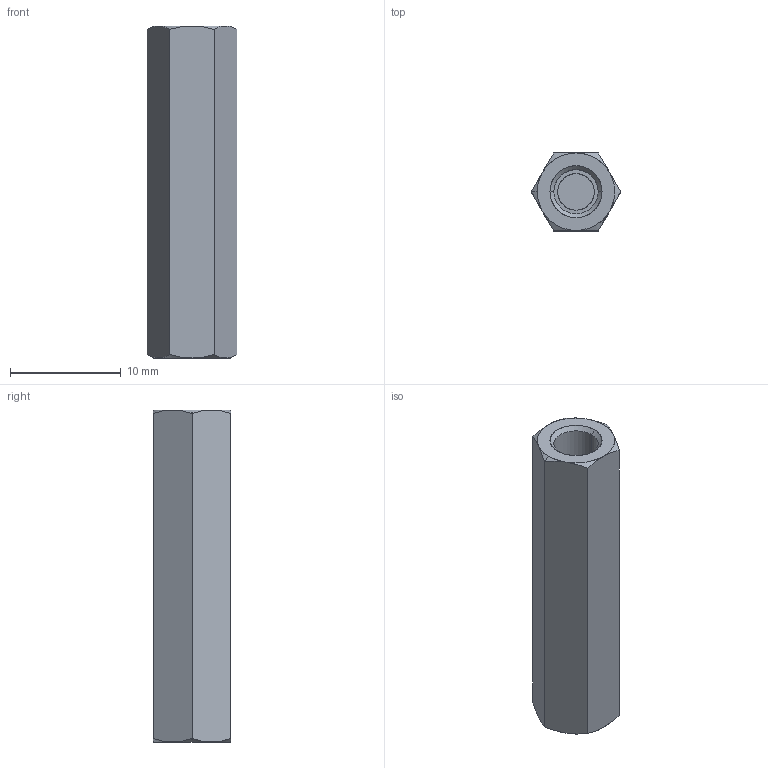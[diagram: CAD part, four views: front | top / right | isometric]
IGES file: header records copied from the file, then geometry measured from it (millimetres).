
Start section: SolidWorks IGES file using analytic representation for surfaces
Global section: file name: C:\Users\ianosborn\Desktop\N0503.NP_v2\N0503.NP_v2_20250227_IGES\Default.igs; native system: SolidWorks 2019; preprocessor: SolidWorks 2019; author: IanOsborn; date: 250227.144014; units: millimetre
Bounding box: 8.08 x 7 x 30 mm (x, y, z)
Surface area: 1077.9 mm2 (no closed solid volume)
Topology: 0 solids, 0 shells, 39 faces, 478 edges, 476 vertices
Faces by surface type: revolution 28, bspline 11
